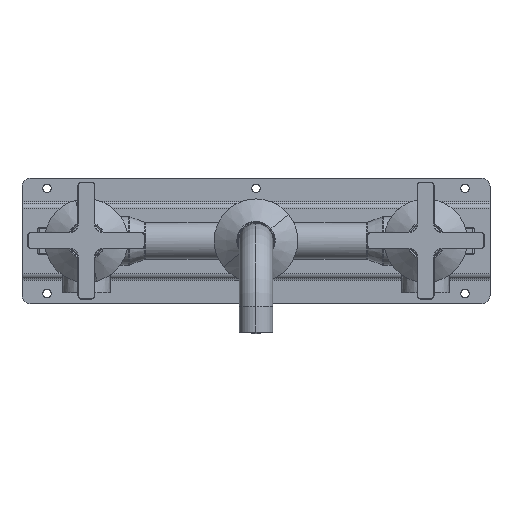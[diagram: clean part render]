
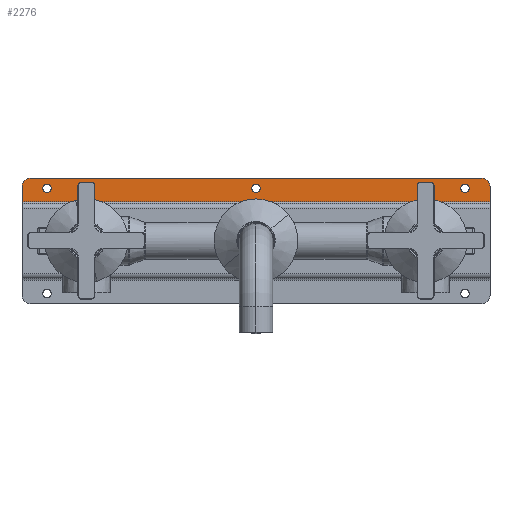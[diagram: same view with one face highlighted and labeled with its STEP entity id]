
A CAD part, top view. The second image highlights one B-rep face of the part: STEP entity #2276.
In plain terms, the highlighted planar face has unit normal (0, 0, 1) as drawn and (0, 1, 0) by its records, which use the part's own axes.
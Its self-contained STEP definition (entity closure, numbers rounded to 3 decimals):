
#253 = AXIS2_PLACEMENT_3D ( 'NONE', #49916, #51087, #23497 ) ;
#1642 = VECTOR ( 'NONE', #8073, 1000. ) ;
#1846 = CIRCLE ( 'NONE', #35141, 2.5 ) ;
#2276 = ADVANCED_FACE ( 'NONE', ( #10183, #37148, #18851, #54575 ), #5561, .T. ) ;
#2368 = VERTEX_POINT ( 'NONE', #11901 ) ;
#2474 = DIRECTION ( 'NONE',  ( -1., 0., 0. ) ) ;
#2804 = ORIENTED_EDGE ( 'NONE', *, *, #38064, .F. ) ;
#3058 = CARTESIAN_POINT ( 'NONE',  ( 275., -10., 2. ) ) ;
#3099 = ORIENTED_EDGE ( 'NONE', *, *, #4179, .T. ) ;
#4179 = EDGE_CURVE ( 'NONE', #47485, #21382, #11841, .T. ) ;
#5561 = PLANE ( 'NONE',  #253 ) ;
#5827 = DIRECTION ( 'NONE',  ( -1., 0., 0. ) ) ;
#6287 = ORIENTED_EDGE ( 'NONE', *, *, #50967, .T. ) ;
#7138 = VERTEX_POINT ( 'NONE', #39834 ) ;
#8049 = ORIENTED_EDGE ( 'NONE', *, *, #44550, .F. ) ;
#8073 = DIRECTION ( 'NONE',  ( 0., 0., -1. ) ) ;
#8700 = DIRECTION ( 'NONE',  ( 0., 1., 0. ) ) ;
#8886 = CARTESIAN_POINT ( 'NONE',  ( 140., -10., 3. ) ) ;
#8994 = AXIS2_PLACEMENT_3D ( 'NONE', #54159, #14402, #10938 ) ;
#9093 = ORIENTED_EDGE ( 'NONE', *, *, #17919, .F. ) ;
#10183 = FACE_BOUND ( 'NONE', #35950, .T. ) ;
#10938 = DIRECTION ( 'NONE',  ( 0., 0., 1. ) ) ;
#11516 = LINE ( 'NONE', #38786, #55546 ) ;
#11732 = CIRCLE ( 'NONE', #30261, 2.5 ) ;
#11841 = LINE ( 'NONE', #56213, #1642 ) ;
#11901 = CARTESIAN_POINT ( 'NONE',  ( 0., -10., 2. ) ) ;
#12274 = DIRECTION ( 'NONE',  ( 0., 0., 1. ) ) ;
#12468 = CARTESIAN_POINT ( 'NONE',  ( 15., -10., 3. ) ) ;
#13168 = VERTEX_POINT ( 'NONE', #21665 ) ;
#13499 = DIRECTION ( 'NONE',  ( 0., 0., 1. ) ) ;
#14120 = VERTEX_POINT ( 'NONE', #34467 ) ;
#14402 = DIRECTION ( 'NONE',  ( 0., 1., 0. ) ) ;
#17919 = EDGE_CURVE ( 'NONE', #25550, #39438, #33899, .T. ) ;
#18246 = CIRCLE ( 'NONE', #8994, 2.5 ) ;
#18352 = AXIS2_PLACEMENT_3D ( 'NONE', #53991, #50225, #27007 ) ;
#18851 = FACE_BOUND ( 'NONE', #26592, .T. ) ;
#19915 = EDGE_CURVE ( 'NONE', #30533, #7138, #33920, .T. ) ;
#21369 = DIRECTION ( 'NONE',  ( 0., 0., 1. ) ) ;
#21382 = VERTEX_POINT ( 'NONE', #48959 ) ;
#21632 = EDGE_CURVE ( 'NONE', #32644, #13168, #55249, .T. ) ;
#21665 = CARTESIAN_POINT ( 'NONE',  ( 5., -10., -3. ) ) ;
#22441 = CARTESIAN_POINT ( 'NONE',  ( 275., -10., -3. ) ) ;
#22446 = ORIENTED_EDGE ( 'NONE', *, *, #19915, .F. ) ;
#22586 = DIRECTION ( 'NONE',  ( 0., 0., 1. ) ) ;
#22806 = VECTOR ( 'NONE', #24238, 1000. ) ;
#23497 = DIRECTION ( 'NONE',  ( 0., 0., 1. ) ) ;
#24022 = EDGE_CURVE ( 'NONE', #14120, #43650, #44484, .T. ) ;
#24238 = DIRECTION ( 'NONE',  ( 0., 0., 1. ) ) ;
#24501 = CARTESIAN_POINT ( 'NONE',  ( 0., -10., 0. ) ) ;
#24793 = DIRECTION ( 'NONE',  ( 0., 0., 1. ) ) ;
#25301 = VERTEX_POINT ( 'NONE', #52131 ) ;
#25424 = CARTESIAN_POINT ( 'NONE',  ( 280., -10., 11. ) ) ;
#25550 = VERTEX_POINT ( 'NONE', #32047 ) ;
#26592 = EDGE_LOOP ( 'NONE', ( #22446, #31626 ) ) ;
#27007 = DIRECTION ( 'NONE',  ( 0., 0., 1. ) ) ;
#27459 = ORIENTED_EDGE ( 'NONE', *, *, #28972, .T. ) ;
#27497 = ORIENTED_EDGE ( 'NONE', *, *, #21632, .T. ) ;
#28972 = EDGE_CURVE ( 'NONE', #13168, #2368, #46127, .T. ) ;
#29135 = LINE ( 'NONE', #24501, #22806 ) ;
#30261 = AXIS2_PLACEMENT_3D ( 'NONE', #48054, #57027, #21369 ) ;
#30533 = VERTEX_POINT ( 'NONE', #56656 ) ;
#30570 = EDGE_CURVE ( 'NONE', #7138, #30533, #1846, .T. ) ;
#30891 = CARTESIAN_POINT ( 'NONE',  ( 140., -10., 0.5 ) ) ;
#31626 = ORIENTED_EDGE ( 'NONE', *, *, #30570, .F. ) ;
#32047 = CARTESIAN_POINT ( 'NONE',  ( 15., -10., 5.5 ) ) ;
#32644 = VERTEX_POINT ( 'NONE', #22441 ) ;
#33899 = CIRCLE ( 'NONE', #37567, 2.5 ) ;
#33920 = CIRCLE ( 'NONE', #35645, 2.5 ) ;
#33951 = DIRECTION ( 'NONE',  ( 0., 0., 1. ) ) ;
#34098 = CIRCLE ( 'NONE', #57245, 5. ) ;
#34467 = CARTESIAN_POINT ( 'NONE',  ( 140., -10., 5.5 ) ) ;
#35141 = AXIS2_PLACEMENT_3D ( 'NONE', #38110, #43605, #12274 ) ;
#35645 = AXIS2_PLACEMENT_3D ( 'NONE', #40583, #52811, #22586 ) ;
#35950 = EDGE_LOOP ( 'NONE', ( #9093, #2804 ) ) ;
#37148 = FACE_BOUND ( 'NONE', #56579, .T. ) ;
#37567 = AXIS2_PLACEMENT_3D ( 'NONE', #12468, #8700, #33951 ) ;
#38064 = EDGE_CURVE ( 'NONE', #39438, #25550, #18246, .T. ) ;
#38110 = CARTESIAN_POINT ( 'NONE',  ( 265., -10., 3. ) ) ;
#38786 = CARTESIAN_POINT ( 'NONE',  ( 280., -10., 11. ) ) ;
#38996 = EDGE_CURVE ( 'NONE', #2368, #25301, #29135, .T. ) ;
#39074 = EDGE_LOOP ( 'NONE', ( #27497, #27459, #39360, #8049, #3099, #6287 ) ) ;
#39360 = ORIENTED_EDGE ( 'NONE', *, *, #38996, .T. ) ;
#39438 = VERTEX_POINT ( 'NONE', #54668 ) ;
#39834 = CARTESIAN_POINT ( 'NONE',  ( 265., -10., 0.5 ) ) ;
#40412 = VECTOR ( 'NONE', #2474, 1000. ) ;
#40583 = CARTESIAN_POINT ( 'NONE',  ( 265., -10., 3. ) ) ;
#40785 = AXIS2_PLACEMENT_3D ( 'NONE', #8886, #45133, #13499 ) ;
#42187 = CARTESIAN_POINT ( 'NONE',  ( 0., -10., -3. ) ) ;
#43605 = DIRECTION ( 'NONE',  ( 0., 1., 0. ) ) ;
#43650 = VERTEX_POINT ( 'NONE', #30891 ) ;
#44484 = CIRCLE ( 'NONE', #40785, 2.5 ) ;
#44550 = EDGE_CURVE ( 'NONE', #47485, #25301, #11516, .T. ) ;
#45133 = DIRECTION ( 'NONE',  ( 0., 1., 0. ) ) ;
#45843 = ORIENTED_EDGE ( 'NONE', *, *, #49601, .F. ) ;
#46127 = CIRCLE ( 'NONE', #18352, 5. ) ;
#47485 = VERTEX_POINT ( 'NONE', #25424 ) ;
#47711 = ORIENTED_EDGE ( 'NONE', *, *, #24022, .F. ) ;
#48054 = CARTESIAN_POINT ( 'NONE',  ( 140., -10., 3. ) ) ;
#48959 = CARTESIAN_POINT ( 'NONE',  ( 280., -10., 2. ) ) ;
#49601 = EDGE_CURVE ( 'NONE', #43650, #14120, #11732, .T. ) ;
#49916 = CARTESIAN_POINT ( 'NONE',  ( 0., -10., 0. ) ) ;
#50225 = DIRECTION ( 'NONE',  ( 0., 1., 0. ) ) ;
#50967 = EDGE_CURVE ( 'NONE', #21382, #32644, #34098, .T. ) ;
#51087 = DIRECTION ( 'NONE',  ( 0., 1., 0. ) ) ;
#52131 = CARTESIAN_POINT ( 'NONE',  ( 0., -10., 11. ) ) ;
#52811 = DIRECTION ( 'NONE',  ( 0., 1., 0. ) ) ;
#53991 = CARTESIAN_POINT ( 'NONE',  ( 5., -10., 2. ) ) ;
#54159 = CARTESIAN_POINT ( 'NONE',  ( 15., -10., 3. ) ) ;
#54575 = FACE_OUTER_BOUND ( 'NONE', #39074, .T. ) ;
#54668 = CARTESIAN_POINT ( 'NONE',  ( 15., -10., 0.5 ) ) ;
#55249 = LINE ( 'NONE', #42187, #40412 ) ;
#55546 = VECTOR ( 'NONE', #5827, 1000. ) ;
#55569 = DIRECTION ( 'NONE',  ( 0., 1., 0. ) ) ;
#56213 = CARTESIAN_POINT ( 'NONE',  ( 280., -10., 0. ) ) ;
#56579 = EDGE_LOOP ( 'NONE', ( #47711, #45843 ) ) ;
#56656 = CARTESIAN_POINT ( 'NONE',  ( 265., -10., 5.5 ) ) ;
#57027 = DIRECTION ( 'NONE',  ( 0., 1., 0. ) ) ;
#57245 = AXIS2_PLACEMENT_3D ( 'NONE', #3058, #55569, #24793 ) ;
